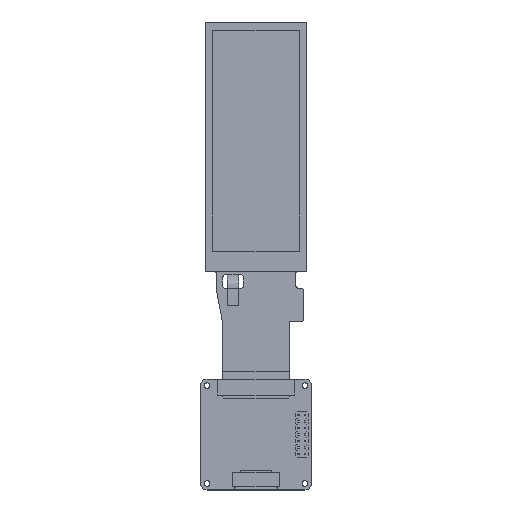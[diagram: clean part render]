
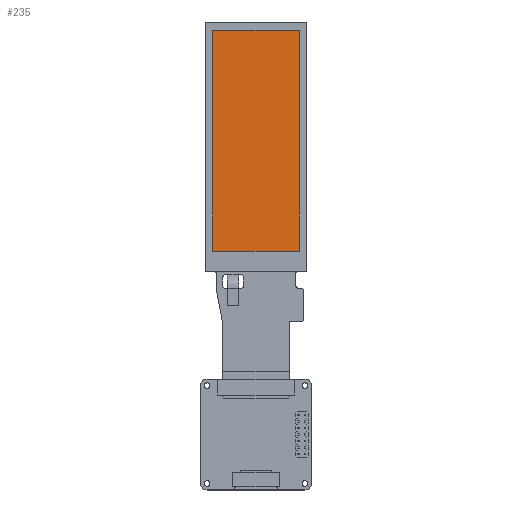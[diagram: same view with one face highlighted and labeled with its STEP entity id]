
A CAD part, top view. The second image highlights one B-rep face of the part: STEP entity #235.
In plain terms, the highlighted planar face has unit normal (0, 0, 1).
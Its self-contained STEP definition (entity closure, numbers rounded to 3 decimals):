
#83=DIRECTION('',(1.,0.,0.));
#84=VECTOR('',#83,26.4);
#85=CARTESIAN_POINT('',(-13.2,35.7,2.4));
#86=LINE('',#85,#84);
#87=DIRECTION('',(0.,1.,0.));
#88=VECTOR('',#87,67.65);
#89=CARTESIAN_POINT('',(-13.2,-31.95,2.4));
#90=LINE('',#89,#88);
#91=DIRECTION('',(-1.,0.,0.));
#92=VECTOR('',#91,26.4);
#93=CARTESIAN_POINT('',(13.2,-31.95,2.4));
#94=LINE('',#93,#92);
#95=DIRECTION('',(0.,-1.,0.));
#96=VECTOR('',#95,67.65);
#97=CARTESIAN_POINT('',(13.2,35.7,2.4));
#98=LINE('',#97,#96);
#115=CARTESIAN_POINT('',(-13.2,35.7,2.4));
#116=CARTESIAN_POINT('',(13.2,35.7,2.4));
#117=VERTEX_POINT('',#115);
#118=VERTEX_POINT('',#116);
#119=CARTESIAN_POINT('',(13.2,-31.95,2.4));
#120=VERTEX_POINT('',#119);
#121=CARTESIAN_POINT('',(-13.2,-31.95,2.4));
#122=VERTEX_POINT('',#121);
#224=CARTESIAN_POINT('',(0.,0.,2.4));
#225=DIRECTION('',(0.,0.,1.));
#226=DIRECTION('',(1.,0.,0.));
#227=AXIS2_PLACEMENT_3D('',#224,#225,#226);
#228=PLANE('',#227);
#229=ORIENTED_EDGE('',*,*,#206,.T.);
#230=ORIENTED_EDGE('',*,*,#212,.T.);
#231=ORIENTED_EDGE('',*,*,#210,.T.);
#232=ORIENTED_EDGE('',*,*,#208,.T.);
#233=EDGE_LOOP('',(#229,#230,#231,#232));
#234=FACE_OUTER_BOUND('',#233,.F.);
#206=EDGE_CURVE('',#117,#118,#86,.T.);
#208=EDGE_CURVE('',#122,#117,#90,.T.);
#210=EDGE_CURVE('',#120,#122,#94,.T.);
#212=EDGE_CURVE('',#118,#120,#98,.T.);
#235=ADVANCED_FACE('',(#234),#228,.T.);
